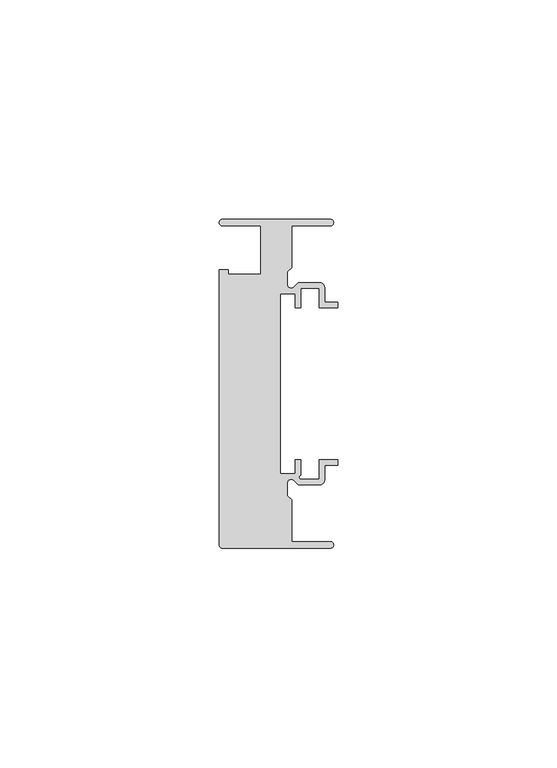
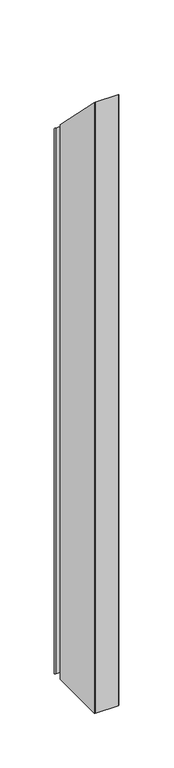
"""IFC4 building model written with IfcOpenShell, lengths in millimetres: member geometry, Прямоугольный импост : 5-AMG-1-Профиль 26Х75 Низ Л."""

from ifc_helpers import new_model, si_unit, frame, origin, place, context, project, spatial, polyline, circle_curve, ellipse_curve, source, transform, mapped, element, save
from ifc_brep_helpers import plane_surface, cylinder_surface, revolved_surface, advanced_brep


def member_1e112815(model_context):
    return source(origin(), model_context, "Body", "AdvancedBrep", [
        advanced_brep(
        [(-1.7, 37.5, -652.9489262), (-1.7, 36.0, -652.9489262), (-10.5, 36.0, -652.9489262), (-10.5, 26.5029437, -652.9489262), (-11.5, 25.5029437, -652.9489262), (-11.5, 22.6727922, -652.9489262), (-9.9636039, 22.0363961, -652.9489262), (-9.0, 23.0, -652.9489262), (-4.0, 23.0, -652.9489262), (-3.0, 22.0, -652.9489262), (-3.0, 18.55, -652.9489262), (0.0, 18.55, -652.9489262), (0.0, 17.35, -652.9489262), (-4.2, 17.35, -652.9489262), (-4.2, 21.8, -652.9489262), (-8.45, 21.8, -652.9489262), (-8.45, 17.35, -652.9489262), (-9.65, 17.35, -652.9489262), (-9.65, 20.55, -652.9489262), (-13.15, 20.55, -652.9489262), (-13.15, -20.55, -652.9489262), (-9.65, -20.55, -652.9489262), (-9.65, -17.35, -652.9489262), (-8.45, -17.35, -652.9489262), (-8.45, -20.8470563, -652.9489262), (-8.5029437, -21.8, -652.9489262), (-4.2, -21.8, -652.9489262), (-4.2, -17.35, -652.9489262), (0.0, -17.35, -652.9489262), (0.0, -18.55, -652.9489262), (-3.0, -18.55, -652.9489262), (-3.0, -22.0, -652.9489262), (-4.0, -23.0, -652.9489262), (-9.0, -23.0, -652.9489262), (-9.9636039, -22.0363961, -652.9489262), (-11.5, -22.6727922, -652.9489262), (-11.5, -25.5029437, -652.9489262), (-10.5, -26.5029437, -652.9489262), (-10.5, -36.0, -652.9489262), (-1.7, -36.0, -652.9489262), (-1.7, -37.5, -652.9489262), (-26.25, -37.5, -652.9489262), (-27.0, -36.75, -652.9489262), (-27.0, 26.0, -652.9489262), (-24.9359877, 26.0, -652.9489262), (-24.9359877, 25.0, -652.9489262), (-17.5, 25.0, -652.9489262), (-17.5, 36.0, -652.9489262), (-26.25, 36.0, -652.9489262), (-26.25, 37.5, -652.9489262), (-26.25, 37.5, -37.5), (-1.7, 37.5, -37.5), (-26.25, 36.0, -36.0), (-17.5, 36.0, -36.0), (-17.5, 25.0, -25.0), (-24.9359877, 25.0, -25.0), (-24.9359877, 26.0, -26.0), (-27.0, 26.0, -26.0), (-27.0, -36.75, 36.75), (-26.25, -37.5, 37.5), (-1.7, -37.5, 37.5), (-1.7, -36.0, 36.0), (-10.5, -36.0, 36.0), (-10.5, -26.5029437, 26.5029437), (-11.5, -25.5029437, 25.5029437), (-11.5, -22.6727922, 22.6727922), (-9.9636039, -22.0363961, 22.0363961), (-9.0, -23.0, 23.0), (-4.0, -23.0, 23.0), (-3.0, -22.0, 22.0), (-3.0, -18.55, 18.55), (0.0, -18.55, 18.55), (0.0, -17.35, 17.35), (-4.2, -17.35, 17.35), (-4.2, -21.8, 21.8), (-8.5029437, -21.8, 21.8), (-8.45, -20.8470563, 20.8470563), (-8.45, -17.35, 17.35), (-9.65, -17.35, 17.35), (-9.65, -20.55, 20.55), (-13.15, -20.55, 20.55), (-13.15, 20.55, -20.55), (-9.65, 20.55, -20.55), (-9.65, 17.35, -17.35), (-8.45, 17.35, -17.35), (-8.45, 21.8, -21.8), (-4.2, 21.8, -21.8), (-4.2, 17.35, -17.35), (0.0, 17.35, -17.35), (0.0, 18.55, -18.55), (-3.0, 18.55, -18.55), (-3.0, 22.0, -22.0), (-4.0, 23.0, -23.0), (-9.0, 23.0, -23.0), (-9.9636039, 22.0363961, -22.0363961), (-11.5, 22.6727922, -22.6727922), (-11.5, 25.5029437, -25.5029437), (-10.5, 26.5029437, -26.5029437), (-10.5, 36.0, -36.0), (-1.7, 36.0, -36.0)],
        [
            (0, 1, circle_curve(frame((-1.7, 36.75, -652.9489262), z_axis=(0.0, 0.0, -1.0), x_axis=(-1.0, 0.0, 0.0)), 0.75)),
            (1, 2),
            (2, 3),
            (3, 4),
            (4, 5),
            (5, 6, circle_curve(frame((-10.6, 22.6727922, -652.9489262), z_axis=(0.0, 0.0, 1.0), x_axis=(1.0, 0.0, 0.0)), 0.9)),
            (6, 7),
            (7, 8),
            (8, 9, circle_curve(frame((-4.0, 22.0, -652.9489262), z_axis=(0.0, 0.0, -1.0), x_axis=(1.0, 0.0, 0.0)), 1.0)),
            (9, 10),
            (10, 11),
            (11, 12),
            (12, 13),
            (13, 14),
            (14, 15),
            (15, 16),
            (16, 17),
            (17, 18),
            (18, 19),
            (19, 20),
            (20, 21),
            (21, 22),
            (22, 23),
            (23, 24),
            (24, 25, circle_curve(frame((-8.3343131, -21.3314262, -652.9489262), z_axis=(0.0, 0.0, 1.0), x_axis=(1.0, 0.0, 0.0)), 0.4979937)),
            (25, 26),
            (26, 27),
            (27, 28),
            (28, 29),
            (29, 30),
            (30, 31),
            (31, 32, circle_curve(frame((-4.0, -22.0, -652.9489262), z_axis=(0.0, 0.0, -1.0), x_axis=(1.0, 0.0, 0.0)), 1.0)),
            (32, 33),
            (33, 34),
            (34, 35, circle_curve(frame((-10.6, -22.6727922, -652.9489262), z_axis=(0.0, 0.0, 1.0), x_axis=(1.0, 0.0, 0.0)), 0.9)),
            (35, 36),
            (36, 37),
            (37, 38),
            (38, 39),
            (39, 40, circle_curve(frame((-1.7, -36.75, -652.9489262), z_axis=(0.0, 0.0, -1.0), x_axis=(-1.0, 0.0, 0.0)), 0.75)),
            (40, 41),
            (41, 42, circle_curve(frame((-26.25, -36.75, -652.9489262), z_axis=(0.0, 0.0, -1.0), x_axis=(-1.0, 0.0, 0.0)), 0.75)),
            (42, 43),
            (43, 44),
            (44, 45),
            (45, 46),
            (46, 47),
            (47, 48),
            (48, 49, circle_curve(frame((-26.25, 36.75, -652.9489262), z_axis=(0.0, 0.0, -1.0), x_axis=(-1.0, 0.0, 0.0)), 0.75)),
            (49, 0),
            (50, 51),
            (51, 0),
            (49, 50),
            (52, 50, ellipse_curve(frame((-26.25, 36.75, -36.75), z_axis=(0.0, -0.7071067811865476, -0.7071067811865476), x_axis=(0.0, -0.7071067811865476, 0.7071067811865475)), 1.0606602, 0.75)),
            (48, 52),
            (53, 52),
            (47, 53),
            (54, 53),
            (46, 54),
            (55, 54),
            (45, 55),
            (56, 55),
            (44, 56),
            (57, 56),
            (43, 57),
            (58, 57),
            (42, 58),
            (59, 58, ellipse_curve(frame((-26.25, -36.75, 36.75), z_axis=(0.0, -0.7071067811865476, -0.7071067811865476), x_axis=(0.0, -0.7071067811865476, 0.7071067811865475)), 1.0606602, 0.75)),
            (41, 59),
            (60, 59),
            (40, 60),
            (61, 60, ellipse_curve(frame((-1.7, -36.75, 36.75), z_axis=(0.0, -0.7071067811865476, -0.7071067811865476), x_axis=(0.0, -0.7071067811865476, 0.7071067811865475)), 1.0606602, 0.75)),
            (39, 61),
            (62, 61),
            (38, 62),
            (63, 62),
            (37, 63),
            (64, 63),
            (36, 64),
            (65, 64),
            (35, 65),
            (66, 65, ellipse_curve(frame((-10.6, -22.6727922, 22.6727922), z_axis=(0.0, 0.7071067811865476, 0.7071067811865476), x_axis=(0.0, 0.7071067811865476, -0.7071067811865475)), 1.2727922, 0.9)),
            (34, 66),
            (67, 66),
            (33, 67),
            (68, 67),
            (32, 68),
            (69, 68, ellipse_curve(frame((-4.0, -22.0, 22.0), z_axis=(0.0, -0.7071067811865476, -0.7071067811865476), x_axis=(0.0, -0.7071067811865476, 0.7071067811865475)), 1.4142136, 1.0)),
            (31, 69),
            (70, 69),
            (30, 70),
            (71, 70),
            (29, 71),
            (72, 71),
            (28, 72),
            (73, 72),
            (27, 73),
            (74, 73),
            (26, 74),
            (75, 74),
            (25, 75),
            (76, 75, ellipse_curve(frame((-8.3343131, -21.3314262, 21.3314262), z_axis=(0.0, 0.7071067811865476, 0.7071067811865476), x_axis=(0.0, 0.7071067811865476, -0.7071067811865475)), 0.7042694, 0.4979937)),
            (24, 76),
            (77, 76),
            (23, 77),
            (78, 77),
            (22, 78),
            (79, 78),
            (21, 79),
            (80, 79),
            (20, 80),
            (81, 80),
            (19, 81),
            (82, 81),
            (18, 82),
            (83, 82),
            (17, 83),
            (84, 83),
            (16, 84),
            (85, 84),
            (15, 85),
            (86, 85),
            (14, 86),
            (87, 86),
            (13, 87),
            (88, 87),
            (12, 88),
            (89, 88),
            (11, 89),
            (90, 89),
            (10, 90),
            (91, 90),
            (9, 91),
            (92, 91, ellipse_curve(frame((-4.0, 22.0, -22.0), z_axis=(0.0, -0.7071067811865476, -0.7071067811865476), x_axis=(0.0, -0.7071067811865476, 0.7071067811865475)), 1.4142136, 1.0)),
            (8, 92),
            (93, 92),
            (7, 93),
            (94, 93),
            (6, 94),
            (95, 94, ellipse_curve(frame((-10.6, 22.6727922, -22.6727922), z_axis=(0.0, 0.7071067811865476, 0.7071067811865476), x_axis=(0.0, 0.7071067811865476, -0.7071067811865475)), 1.2727922, 0.9)),
            (5, 95),
            (96, 95),
            (4, 96),
            (97, 96),
            (3, 97),
            (98, 97),
            (2, 98),
            (99, 98),
            (1, 99),
            (51, 99, ellipse_curve(frame((-1.7, 36.75, -36.75), z_axis=(0.0, -0.7071067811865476, -0.7071067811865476), x_axis=(0.0, -0.7071067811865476, 0.7071067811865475)), 1.0606602, 0.75)),
        ],
        [
            plane_surface(frame((0.0, -45.9021687, -652.9489262), z_axis=(0.0, 0.0, -1.0), x_axis=(-1.0, 0.0, 0.0))),
            plane_surface(frame((-1.7, 37.5, 0.0), z_axis=(0.0, 1.0, 0.0), x_axis=(0.0, 0.0, -1.0))),
            cylinder_surface(frame((-26.25, 36.75, 0.0), z_axis=(0.0, 0.0, 1.0), x_axis=(-1.0, 0.0, 0.0)), 0.75),
            plane_surface(frame((-26.25, 36.0, 0.0), z_axis=(0.0, -1.0, 0.0), x_axis=(0.0, 0.0, -1.0))),
            plane_surface(frame((-17.5, 36.0, 0.0), z_axis=(-1.0, 0.0, 0.0), x_axis=(0.0, 0.0, -1.0))),
            plane_surface(frame((-17.5, 25.0, 0.0), z_axis=(0.0, 1.0, 0.0), x_axis=(0.0, 0.0, -1.0))),
            plane_surface(frame((-24.9359877, 25.0, 0.0), z_axis=(1.0, 0.0, 0.0), x_axis=(0.0, 0.0, -1.0))),
            plane_surface(frame((-24.9359877, 26.0, 0.0), z_axis=(0.0, 1.0, 0.0), x_axis=(0.0, 0.0, -1.0))),
            plane_surface(frame((-27.0, 26.0, 0.0), z_axis=(-1.0, 0.0, 0.0), x_axis=(0.0, 0.0, -1.0))),
            cylinder_surface(frame((-26.25, -36.75, 0.0), z_axis=(0.0, 0.0, 1.0), x_axis=(-1.0, 0.0, 0.0)), 0.75),
            plane_surface(frame((-26.25, -37.5, 0.0), z_axis=(0.0, -1.0, 0.0), x_axis=(0.0, 0.0, -1.0))),
            cylinder_surface(frame((-1.7, -36.75, 0.0), z_axis=(0.0, 0.0, 1.0), x_axis=(-1.0, 0.0, 0.0)), 0.75),
            plane_surface(frame((-1.7, -36.0, 0.0), z_axis=(0.0, 1.0, 0.0), x_axis=(0.0, 0.0, -1.0))),
            plane_surface(frame((-10.5, -36.0, 0.0), z_axis=(1.0, 0.0, 0.0), x_axis=(0.0, 0.0, -1.0))),
            plane_surface(frame((-10.5, -26.5029437, 0.0), z_axis=(0.7071067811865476, 0.7071067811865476, 0.0), x_axis=(0.0, 0.0, -1.0))),
            plane_surface(frame((-11.5, -25.5029437, 0.0), z_axis=(1.0, 0.0, 0.0), x_axis=(0.0, 0.0, -1.0))),
            revolved_surface(polyline([(-9.7, -22.6727922, -652.9489262), (-9.7, -22.6727922, 23.572792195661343)]), (-10.6, -22.6727922, 0.0), (0.0, 0.0, -1.0)),
            plane_surface(frame((-9.9636039, -22.0363961, 0.0), z_axis=(-0.7071067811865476, -0.7071067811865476, 0.0), x_axis=(0.0, 0.0, -1.0))),
            plane_surface(frame((-9.0, -23.0, 0.0), z_axis=(0.0, -1.0, 0.0), x_axis=(0.0, 0.0, -1.0))),
            cylinder_surface(frame((-4.0, -22.0, 0.0), z_axis=(0.0, 0.0, 1.0), x_axis=(1.0, 0.0, 0.0)), 1.0),
            plane_surface(frame((-3.0, -22.0, 0.0), z_axis=(1.0, 0.0, 0.0), x_axis=(0.0, 0.0, -1.0))),
            plane_surface(frame((-3.0, -18.55, 0.0), z_axis=(0.0, -1.0, 0.0), x_axis=(0.0, 0.0, -1.0))),
            plane_surface(frame((0.0, -18.55, 0.0), z_axis=(1.0, 0.0, 0.0), x_axis=(0.0, 0.0, -1.0))),
            plane_surface(frame((0.0, -17.35, 0.0), z_axis=(0.0, 1.0, 0.0), x_axis=(0.0, 0.0, -1.0))),
            plane_surface(frame((-4.2, -17.35, 0.0), z_axis=(-1.0, 0.0, 0.0), x_axis=(0.0, 0.0, -1.0))),
            plane_surface(frame((-4.2, -21.8, 0.0), z_axis=(0.0, 1.0, 0.0), x_axis=(0.0, 0.0, -1.0))),
            revolved_surface(polyline([(-7.836319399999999, -21.3314262, -652.9489262), (-7.836319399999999, -21.3314262, 21.82941986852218)]), (-8.3343131, -21.3314262, 0.0), (0.0, 0.0, -1.0)),
            plane_surface(frame((-8.45, -20.8470563, 0.0), z_axis=(1.0, 0.0, 0.0), x_axis=(0.0, 0.0, -1.0))),
            plane_surface(frame((-8.45, -17.35, 0.0), z_axis=(0.0, 1.0, 0.0), x_axis=(0.0, 0.0, -1.0))),
            plane_surface(frame((-9.65, -17.35, 0.0), z_axis=(-1.0, 0.0, 0.0), x_axis=(0.0, 0.0, -1.0))),
            plane_surface(frame((-9.65, -20.55, 0.0), z_axis=(0.0, 1.0, 0.0), x_axis=(0.0, 0.0, -1.0))),
            plane_surface(frame((-13.15, -20.55, 0.0), z_axis=(1.0, 0.0, 0.0), x_axis=(0.0, 0.0, -1.0))),
            plane_surface(frame((-13.15, 20.55, 0.0), z_axis=(0.0, -1.0, 0.0), x_axis=(0.0, 0.0, -1.0))),
            plane_surface(frame((-9.65, 20.55, 0.0), z_axis=(-1.0, 0.0, 0.0), x_axis=(0.0, 0.0, -1.0))),
            plane_surface(frame((-9.65, 17.35, 0.0), z_axis=(0.0, -1.0, 0.0), x_axis=(0.0, 0.0, -1.0))),
            plane_surface(frame((-8.45, 17.35, 0.0), z_axis=(1.0, 0.0, 0.0), x_axis=(0.0, 0.0, -1.0))),
            plane_surface(frame((-8.45, 21.8, 0.0), z_axis=(0.0, -1.0, 0.0), x_axis=(0.0, 0.0, -1.0))),
            plane_surface(frame((-4.2, 21.8, 0.0), z_axis=(-1.0, 0.0, 0.0), x_axis=(0.0, 0.0, -1.0))),
            plane_surface(frame((-4.2, 17.35, 0.0), z_axis=(0.0, -1.0, 0.0), x_axis=(0.0, 0.0, -1.0))),
            plane_surface(frame((0.0, 17.35, 0.0), z_axis=(1.0, 0.0, 0.0), x_axis=(0.0, 0.0, -1.0))),
            plane_surface(frame((0.0, 18.55, 0.0), z_axis=(0.0, 1.0, 0.0), x_axis=(0.0, 0.0, -1.0))),
            plane_surface(frame((-3.0, 18.55, 0.0), z_axis=(1.0, 0.0, 0.0), x_axis=(0.0, 0.0, -1.0))),
            cylinder_surface(frame((-4.0, 22.0, 0.0), z_axis=(0.0, 0.0, 1.0), x_axis=(1.0, 0.0, 0.0)), 1.0),
            plane_surface(frame((-4.0, 23.0, 0.0), z_axis=(0.0, 1.0, 0.0), x_axis=(0.0, 0.0, -1.0))),
            plane_surface(frame((-9.0, 23.0, 0.0), z_axis=(-0.7071067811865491, 0.707106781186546, 0.0), x_axis=(0.0, 0.0, -1.0))),
            revolved_surface(polyline([(-9.7, 22.6727922, -652.9489262), (-9.7, 22.6727922, -21.772792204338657)]), (-10.6, 22.6727922, 0.0), (0.0, 0.0, -1.0)),
            plane_surface(frame((-11.5, 22.6727922, 0.0), z_axis=(1.0, 0.0, 0.0), x_axis=(0.0, 0.0, -1.0))),
            plane_surface(frame((-11.5, 25.5029437, 0.0), z_axis=(0.7071067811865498, -0.7071067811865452, 0.0), x_axis=(0.0, 0.0, -1.0))),
            plane_surface(frame((-10.5, 26.5029437, 0.0), z_axis=(1.0, 0.0, 0.0), x_axis=(0.0, 0.0, -1.0))),
            plane_surface(frame((-10.5, 36.0, 0.0), z_axis=(0.0, -1.0, 0.0), x_axis=(0.0, 0.0, -1.0))),
            cylinder_surface(frame((-1.7, 36.75, 0.0), z_axis=(0.0, 0.0, 1.0), x_axis=(-1.0, 0.0, 0.0)), 0.75),
            plane_surface(frame((-304.8, 0.0, 0.0), z_axis=(0.0, 0.7071067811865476, 0.7071067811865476), x_axis=(0.0, 0.7071067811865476, -0.7071067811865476))),
        ],
        [
            (0, [[1, 2, 3, 4, 5, 6, 7, 8, 9, 10, 11, 12, 13, 14, 15, 16, 17, 18, 19, 20, 21, 22, 23, 24, 25, 26, 27, 28, 29, 30, 31, 32, 33, 34, 35, 36, 37, 38, 39, 40, 41, 42, 43, 44, 45, 46, 47, 48, 49, 50]]),
            (1, [[51, 52, -50, 53]]),
            (2, [[54, -53, -49, 55]]),
            (3, [[56, -55, -48, 57]]),
            (4, [[58, -57, -47, 59]]),
            (5, [[60, -59, -46, 61]]),
            (6, [[62, -61, -45, 63]]),
            (7, [[64, -63, -44, 65]]),
            (8, [[66, -65, -43, 67]]),
            (9, [[68, -67, -42, 69]]),
            (10, [[70, -69, -41, 71]]),
            (11, [[72, -71, -40, 73]]),
            (12, [[74, -73, -39, 75]]),
            (13, [[76, -75, -38, 77]]),
            (14, [[78, -77, -37, 79]]),
            (15, [[80, -79, -36, 81]]),
            (16, [[82, -81, -35, 83]]),
            (17, [[84, -83, -34, 85]]),
            (18, [[86, -85, -33, 87]]),
            (19, [[88, -87, -32, 89]]),
            (20, [[90, -89, -31, 91]]),
            (21, [[92, -91, -30, 93]]),
            (22, [[94, -93, -29, 95]]),
            (23, [[96, -95, -28, 97]]),
            (24, [[98, -97, -27, 99]]),
            (25, [[100, -99, -26, 101]]),
            (26, [[102, -101, -25, 103]]),
            (27, [[104, -103, -24, 105]]),
            (28, [[106, -105, -23, 107]]),
            (29, [[108, -107, -22, 109]]),
            (30, [[110, -109, -21, 111]]),
            (31, [[112, -111, -20, 113]]),
            (32, [[114, -113, -19, 115]]),
            (33, [[116, -115, -18, 117]]),
            (34, [[118, -117, -17, 119]]),
            (35, [[120, -119, -16, 121]]),
            (36, [[122, -121, -15, 123]]),
            (37, [[124, -123, -14, 125]]),
            (38, [[126, -125, -13, 127]]),
            (39, [[128, -127, -12, 129]]),
            (40, [[130, -129, -11, 131]]),
            (41, [[132, -131, -10, 133]]),
            (42, [[134, -133, -9, 135]]),
            (43, [[136, -135, -8, 137]]),
            (44, [[138, -137, -7, 139]]),
            (45, [[140, -139, -6, 141]]),
            (46, [[142, -141, -5, 143]]),
            (47, [[144, -143, -4, 145]]),
            (48, [[146, -145, -3, 147]]),
            (49, [[148, -147, -2, 149]]),
            (50, [[150, -149, -1, -52]]),
            (51, [[-51, -54, -56, -58, -60, -62, -64, -66, -68, -70, -72, -74, -76, -78, -80, -82, -84, -86, -88, -90, -92, -94, -96, -98, -100, -102, -104, -106, -108, -110, -112, -114, -116, -118, -120, -122, -124, -126, -128, -130, -132, -134, -136, -138, -140, -142, -144, -146, -148, -150]]),
        ],
    ),
    ])


if __name__ == "__main__":
    model = new_model("IFC4")
    model_context = context("Model", 3, world=origin())
    ifc_project = project(units=[si_unit("LENGTHUNIT", "METRE", prefix="MILLI")], contexts=[model_context])
    site = spatial("IfcSite", under=ifc_project)
    building = spatial("IfcBuilding", under=site)
    placement = place(None, origin())
    member_shape = member_1e112815(model_context)
    element("IfcMember", 1, ObjectType="Прямоугольный импост : 5-AMG-1-Профиль 26Х75 Низ Л", at=placement, inside=building, context=model_context, shape_type="MappedRepresentation", body=[
        mapped(member_shape, transform((0.0, 0.0, 0.0), x_axis=(1.0, 0.0, 0.0), y_axis=(0.0, 1.0, 0.0), z_axis=(0.0, 0.0, 1.0))),
    ])
    save(model, "model.ifc")
